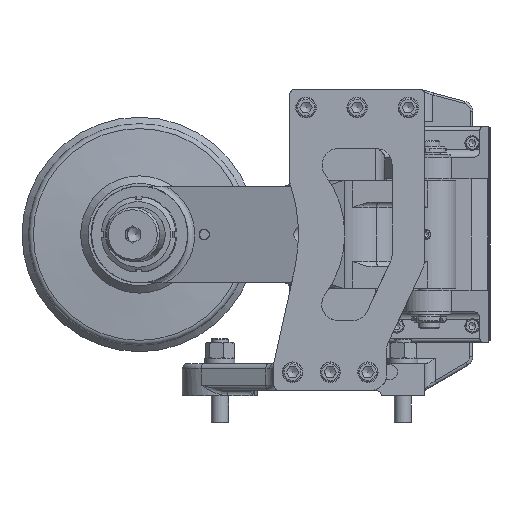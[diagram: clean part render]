
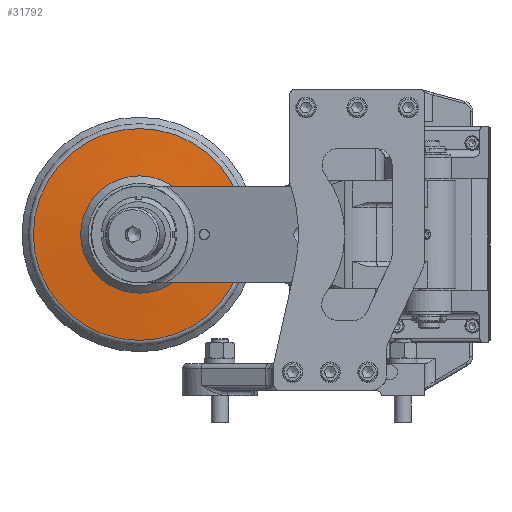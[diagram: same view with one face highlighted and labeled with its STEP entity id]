
A CAD part, left-side view. The second image highlights one B-rep face of the part: STEP entity #31792.
In plain terms, the highlighted conical face has half-angle 85 degrees and reference radius 76.468 mm.
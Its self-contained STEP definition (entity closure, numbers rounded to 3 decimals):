
#2012=CONICAL_SURFACE('',#33884,76.468,1.484);
#2363=FACE_OUTER_BOUND('',#4166,.T.);
#4166=EDGE_LOOP('',(#21084,#21085,#21086,#21087,#21088,#21089,#21090));
#6116=LINE('',#47968,#8312);
#8312=VECTOR('',#38270,76.468);
#10629=CIRCLE('',#33882,54.5);
#10630=CIRCLE('',#33883,54.5);
#10631=CIRCLE('',#33885,98.436);
#10632=CIRCLE('',#33886,98.436);
#10633=CIRCLE('',#33887,98.436);
#12592=VERTEX_POINT('',#47957);
#12593=VERTEX_POINT('',#47958);
#12594=VERTEX_POINT('',#47963);
#12595=VERTEX_POINT('',#47964);
#12596=VERTEX_POINT('',#47966);
#15846=EDGE_CURVE('',#12592,#12593,#10629,.T.);
#15847=EDGE_CURVE('',#12593,#12592,#10630,.T.);
#15849=EDGE_CURVE('',#12594,#12595,#10631,.T.);
#15850=EDGE_CURVE('',#12596,#12594,#10632,.T.);
#15851=EDGE_CURVE('',#12596,#12593,#6116,.T.);
#15852=EDGE_CURVE('',#12595,#12596,#10633,.T.);
#21084=ORIENTED_EDGE('',*,*,#15849,.F.);
#21085=ORIENTED_EDGE('',*,*,#15850,.F.);
#21086=ORIENTED_EDGE('',*,*,#15851,.T.);
#21087=ORIENTED_EDGE('',*,*,#15847,.T.);
#21088=ORIENTED_EDGE('',*,*,#15846,.T.);
#21089=ORIENTED_EDGE('',*,*,#15851,.F.);
#21090=ORIENTED_EDGE('',*,*,#15852,.F.);
#31792=ADVANCED_FACE('',(#2363),#2012,.T.);
#33882=AXIS2_PLACEMENT_3D('',#47959,#38259,#38260);
#33883=AXIS2_PLACEMENT_3D('',#47960,#38261,#38262);
#33884=AXIS2_PLACEMENT_3D('',#47962,#38264,#38265);
#33885=AXIS2_PLACEMENT_3D('',#47965,#38266,#38267);
#33886=AXIS2_PLACEMENT_3D('',#47967,#38268,#38269);
#33887=AXIS2_PLACEMENT_3D('',#47969,#38271,#38272);
#38259=DIRECTION('center_axis',(1.,0.,0.));
#38260=DIRECTION('ref_axis',(0.,0.,
1.));
#38261=DIRECTION('center_axis',(1.,0.,0.));
#38262=DIRECTION('ref_axis',(0.,0.,
1.));
#38264=DIRECTION('center_axis',(1.,0.,0.));
#38265=DIRECTION('ref_axis',(0.,0.,
1.));
#38266=DIRECTION('center_axis',(1.,0.,0.));
#38267=DIRECTION('ref_axis',(0.,0.,
1.));
#38268=DIRECTION('center_axis',(1.,0.,0.));
#38269=DIRECTION('ref_axis',(0.,0.,
1.));
#38270=DIRECTION('',(-0.087,0.,0.996));
#38271=DIRECTION('center_axis',(1.,0.,0.));
#38272=DIRECTION('ref_axis',(0.,0.,
1.));
#47957=CARTESIAN_POINT('',(109.1,310.,204.5));
#47958=CARTESIAN_POINT('',(109.1,310.,95.5));
#47959=CARTESIAN_POINT('Origin',(109.1,310.,150.));
#47960=CARTESIAN_POINT('Origin',(109.1,310.,150.));
#47962=CARTESIAN_POINT('Origin',(111.022,310.,150.));
#47963=CARTESIAN_POINT('',(112.944,310.,248.436));
#47964=CARTESIAN_POINT('',(112.944,211.564,150.));
#47965=CARTESIAN_POINT('Origin',(112.944,310.,150.));
#47966=CARTESIAN_POINT('',(112.944,310.,51.564));
#47967=CARTESIAN_POINT('Origin',(112.944,310.,150.));
#47968=CARTESIAN_POINT('',(111.022,310.,73.532));
#47969=CARTESIAN_POINT('Origin',(112.944,310.,150.));
